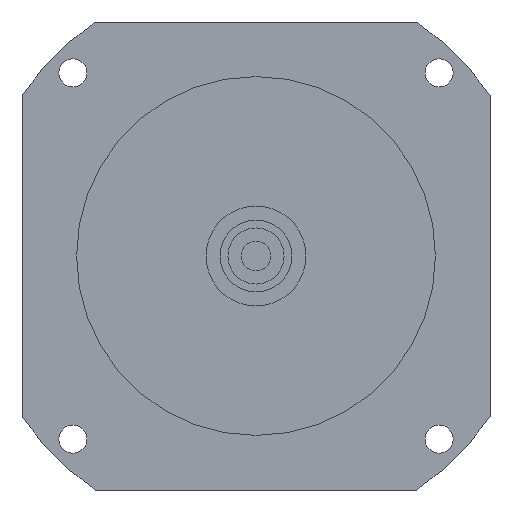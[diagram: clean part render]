
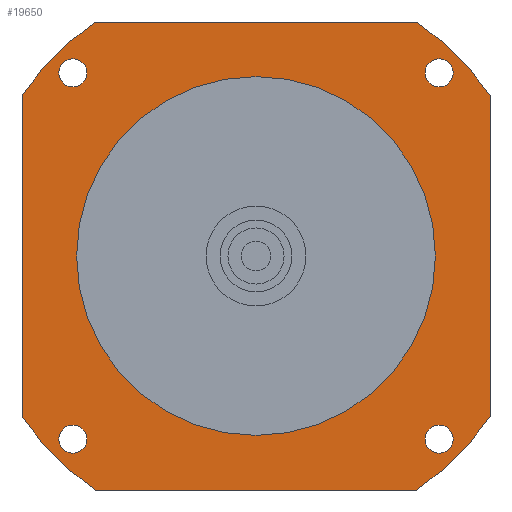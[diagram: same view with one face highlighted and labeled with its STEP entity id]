
A CAD part, left-side view. The second image highlights one B-rep face of the part: STEP entity #19650.
In plain terms, the highlighted planar face has unit normal (-1, 0, 0) as drawn and (0, 0, -1) by its records, which use the part's own axes.
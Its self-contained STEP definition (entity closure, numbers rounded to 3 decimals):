
#13830=CARTESIAN_POINT('',(75.,51.536,-62.));
#13840=VERTEX_POINT('',#13830);
#13890=CARTESIAN_POINT('',(75.,75.,-62.));
#13900=DIRECTION('',(0.,-1.,0.));
#13910=VECTOR('',#13900,1000.);
#13920=LINE('',#13890,#13910);
#13930=CARTESIAN_POINT('',(75.,-51.536,-62.));
#13940=VERTEX_POINT('',#13930);
#13950=EDGE_CURVE('',#13840,#13940,#13920,.T.);
#18070=CARTESIAN_POINT('',(-54.19,58.69,-62.));
#18080=VERTEX_POINT('',#18070);
#18110=CARTESIAN_POINT('',(-58.69,58.69,-62.));
#18120=DIRECTION('',(0.,0.,-1.));
#18130=DIRECTION('',(-1.,0.,0.));
#18140=AXIS2_PLACEMENT_3D('',#18110,#18120,#18130);
#18150=CIRCLE('',#18140,4.5);
#18160=CARTESIAN_POINT('',(-63.19,58.69,-62.));
#18170=VERTEX_POINT('',#18160);
#18180=EDGE_CURVE('',#18170,#18080,#18150,.T.);
#18300=CARTESIAN_POINT('',(75.,75.,-62.));
#18310=DIRECTION('',(0.,0.,-1.));
#18320=DIRECTION('',(1.,0.,0.));
#18330=AXIS2_PLACEMENT_3D('',#18300,#18310,#18320);
#18340=PLANE('',#18330);
#18350=ORIENTED_EDGE('',*,*,#18180,.F.);
#18360=EDGE_CURVE('',#18080,#18170,#18150,.T.);
#18370=ORIENTED_EDGE('',*,*,#18360,.F.);
#18380=EDGE_LOOP('',(#18370,#18350));
#18390=FACE_BOUND('',#18380,.T.);
#18400=CARTESIAN_POINT('',(58.69,58.69,-62.));
#18410=DIRECTION('',(0.,0.,-1.));
#18420=DIRECTION('',(0.,1.,0.));
#18430=AXIS2_PLACEMENT_3D('',#18400,#18410,#18420);
#18440=CIRCLE('',#18430,4.5);
#18450=CARTESIAN_POINT('',(58.69,63.19,-62.));
#18460=VERTEX_POINT('',#18450);
#18470=CARTESIAN_POINT('',(58.69,54.19,-62.));
#18480=VERTEX_POINT('',#18470);
#18490=EDGE_CURVE('',#18460,#18480,#18440,.T.);
#18500=ORIENTED_EDGE('',*,*,#18490,.F.);
#18510=EDGE_CURVE('',#18480,#18460,#18440,.T.);
#18520=ORIENTED_EDGE('',*,*,#18510,.F.);
#18530=EDGE_LOOP('',(#18520,#18500));
#18540=FACE_BOUND('',#18530,.T.);
#18550=CARTESIAN_POINT('',(0.,0.,
-62.));
#18560=DIRECTION('',(0.,0.,1.));
#18570=DIRECTION('',(0.,1.,0.));
#18580=AXIS2_PLACEMENT_3D('',#18550,#18560,#18570);
#18590=CIRCLE('',#18580,57.5);
#18600=CARTESIAN_POINT('',(-57.5,0.,-62.));
#18610=VERTEX_POINT('',#18600);
#18620=CARTESIAN_POINT('',(57.5,0.,-62.));
#18630=VERTEX_POINT('',#18620);
#18640=EDGE_CURVE('',#18610,#18630,#18590,.T.);
#18650=ORIENTED_EDGE('',*,*,#18640,.T.);
#18660=CARTESIAN_POINT('',(0.,57.5,-62.));
#18670=VERTEX_POINT('',#18660);
#18680=EDGE_CURVE('',#18670,#18610,#18590,.T.);
#18690=ORIENTED_EDGE('',*,*,#18680,.T.);
#18700=EDGE_CURVE('',#18630,#18670,#18590,.T.);
#18710=ORIENTED_EDGE('',*,*,#18700,.T.);
#18720=EDGE_LOOP('',(#18710,#18690,#18650));
#18730=FACE_BOUND('',#18720,.T.);
#18740=CARTESIAN_POINT('',(58.69,-58.69,-62.));
#18750=DIRECTION('',(0.,0.,-1.));
#18760=DIRECTION('',(1.,0.,0.));
#18770=AXIS2_PLACEMENT_3D('',#18740,#18750,#18760);
#18780=CIRCLE('',#18770,4.5);
#18790=CARTESIAN_POINT('',(63.19,-58.69,-62.));
#18800=VERTEX_POINT('',#18790);
#18810=CARTESIAN_POINT('',(54.19,-58.69,-62.));
#18820=VERTEX_POINT('',#18810);
#18830=EDGE_CURVE('',#18800,#18820,#18780,.T.);
#18840=ORIENTED_EDGE('',*,*,#18830,.F.);
#18850=EDGE_CURVE('',#18820,#18800,#18780,.T.);
#18860=ORIENTED_EDGE('',*,*,#18850,.F.);
#18870=EDGE_LOOP('',(#18860,#18840));
#18880=FACE_BOUND('',#18870,.T.);
#18890=CARTESIAN_POINT('',(-58.69,-58.69,-62.));
#18900=DIRECTION('',(0.,0.,-1.));
#18910=DIRECTION('',(0.,-1.,0.));
#18920=AXIS2_PLACEMENT_3D('',#18890,#18900,#18910);
#18930=CIRCLE('',#18920,4.5);
#18940=CARTESIAN_POINT('',(-58.69,-63.19,-62.));
#18950=VERTEX_POINT('',#18940);
#18960=CARTESIAN_POINT('',(-58.69,-54.19,-62.));
#18970=VERTEX_POINT('',#18960);
#18980=EDGE_CURVE('',#18950,#18970,#18930,.T.);
#18990=ORIENTED_EDGE('',*,*,#18980,.F.);
#19000=EDGE_CURVE('',#18970,#18950,#18930,.T.);
#19010=ORIENTED_EDGE('',*,*,#19000,.F.);
#19020=EDGE_LOOP('',(#19010,#18990));
#19030=FACE_BOUND('',#19020,.T.);
#19040=CARTESIAN_POINT('',(-75.,75.,-62.));
#19050=DIRECTION('',(1.,0.,0.));
#19060=VECTOR('',#19050,1000.);
#19070=LINE('',#19040,#19060);
#19080=CARTESIAN_POINT('',(-51.536,75.,-62.));
#19090=VERTEX_POINT('',#19080);
#19100=CARTESIAN_POINT('',(51.536,75.,-62.));
#19110=VERTEX_POINT('',#19100);
#19120=EDGE_CURVE('',#19090,#19110,#19070,.T.);
#19130=ORIENTED_EDGE('',*,*,#19120,.T.);
#19140=CARTESIAN_POINT('',(0.,0.,-62.));
#19150=DIRECTION('',(0.,0.,-1.));
#19160=DIRECTION('',(1.,0.,0.));
#19170=AXIS2_PLACEMENT_3D('',#19140,#19150,#19160);
#19180=CIRCLE('',#19170,91.);
#19190=CARTESIAN_POINT('',(-75.,51.536,-62.));
#19200=VERTEX_POINT('',#19190);
#19210=EDGE_CURVE('',#19200,#19090,#19180,.T.);
#19220=ORIENTED_EDGE('',*,*,#19210,.T.);
#19230=CARTESIAN_POINT('',(-75.,-75.,-62.));
#19240=DIRECTION('',(0.,1.,0.));
#19250=VECTOR('',#19240,1000.);
#19260=LINE('',#19230,#19250);
#19270=CARTESIAN_POINT('',(-75.,-51.536,-62.));
#19280=VERTEX_POINT('',#19270);
#19290=EDGE_CURVE('',#19280,#19200,#19260,.T.);
#19300=ORIENTED_EDGE('',*,*,#19290,.T.);
#19310=CARTESIAN_POINT('',(0.,0.,-62.));
#19320=DIRECTION('',(0.,0.,-1.));
#19330=DIRECTION('',(1.,0.,0.));
#19340=AXIS2_PLACEMENT_3D('',#19310,#19320,#19330);
#19350=CIRCLE('',#19340,91.);
#19360=CARTESIAN_POINT('',(-51.536,-75.,-62.));
#19370=VERTEX_POINT('',#19360);
#19380=EDGE_CURVE('',#19370,#19280,#19350,.T.);
#19390=ORIENTED_EDGE('',*,*,#19380,.T.);
#19400=CARTESIAN_POINT('',(75.,-75.,-62.));
#19410=DIRECTION('',(-1.,0.,0.));
#19420=VECTOR('',#19410,1000.);
#19430=LINE('',#19400,#19420);
#19440=CARTESIAN_POINT('',(51.536,-75.,-62.));
#19450=VERTEX_POINT('',#19440);
#19460=EDGE_CURVE('',#19450,#19370,#19430,.T.);
#19470=ORIENTED_EDGE('',*,*,#19460,.T.);
#19480=CARTESIAN_POINT('',(0.,0.,-62.));
#19490=DIRECTION('',(0.,0.,-1.));
#19500=DIRECTION('',(1.,0.,0.));
#19510=AXIS2_PLACEMENT_3D('',#19480,#19490,#19500);
#19520=CIRCLE('',#19510,91.);
#19530=EDGE_CURVE('',#13940,#19450,#19520,.T.);
#19540=ORIENTED_EDGE('',*,*,#19530,.T.);
#19550=ORIENTED_EDGE('',*,*,#13950,.T.);
#19560=CARTESIAN_POINT('',(0.,0.,-62.));
#19570=DIRECTION('',(0.,0.,-1.));
#19580=DIRECTION('',(1.,0.,0.));
#19590=AXIS2_PLACEMENT_3D('',#19560,#19570,#19580);
#19600=CIRCLE('',#19590,91.);
#19610=EDGE_CURVE('',#19110,#13840,#19600,.T.);
#19620=ORIENTED_EDGE('',*,*,#19610,.T.);
#19630=EDGE_LOOP('',(#19620,#19550,#19540,#19470,#19390,#19300,#19220,
#19130));
#19640=FACE_OUTER_BOUND('',#19630,.T.);
#19650=ADVANCED_FACE('',(#18390,#18540,#18730,#18880,#19030,#19640),
#18340,.T.);
